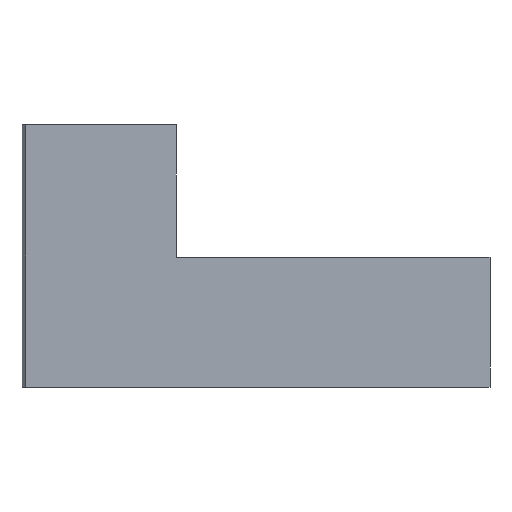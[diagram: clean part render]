
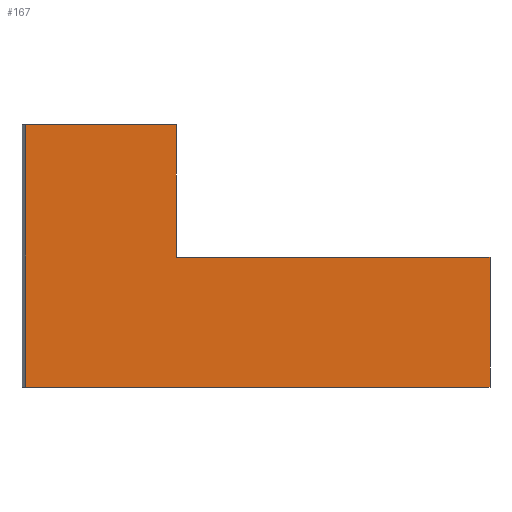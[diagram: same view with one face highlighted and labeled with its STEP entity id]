
A CAD part, left-side view. The second image highlights one B-rep face of the part: STEP entity #167.
In plain terms, the highlighted planar face has unit normal (-1, 0, 0).
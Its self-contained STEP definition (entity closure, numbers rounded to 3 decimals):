
#21=FACE_OUTER_BOUND('',#30,.T.);
#30=EDGE_LOOP('',(#135,#136,#137,#138,#139,#140));
#36=LINE('',#249,#57);
#40=LINE('',#258,#61);
#45=LINE('',#267,#66);
#46=LINE('',#270,#67);
#51=LINE('',#279,#72);
#52=LINE('',#281,#73);
#57=VECTOR('',#206,10.);
#61=VECTOR('',#214,10.);
#66=VECTOR('',#221,10.);
#67=VECTOR('',#224,10.);
#72=VECTOR('',#231,10.);
#73=VECTOR('',#234,10.);
#75=VERTEX_POINT('',#242);
#78=VERTEX_POINT('',#247);
#81=VERTEX_POINT('',#257);
#84=VERTEX_POINT('',#264);
#85=VERTEX_POINT('',#269);
#87=VERTEX_POINT('',#275);
#92=EDGE_CURVE('',#78,#75,#36,.T.);
#96=EDGE_CURVE('',#75,#81,#40,.T.);
#101=EDGE_CURVE('',#84,#81,#45,.T.);
#102=EDGE_CURVE('',#84,#85,#46,.T.);
#107=EDGE_CURVE('',#87,#85,#51,.T.);
#108=EDGE_CURVE('',#78,#87,#52,.T.);
#135=ORIENTED_EDGE('',*,*,#92,.F.);
#136=ORIENTED_EDGE('',*,*,#108,.T.);
#137=ORIENTED_EDGE('',*,*,#107,.T.);
#138=ORIENTED_EDGE('',*,*,#102,.F.);
#139=ORIENTED_EDGE('',*,*,#101,.T.);
#140=ORIENTED_EDGE('',*,*,#96,.F.);
#158=PLANE('',#196);
#167=ADVANCED_FACE('',(#21),#158,.T.);
#196=AXIS2_PLACEMENT_3D('',#280,#232,#233);
#206=DIRECTION('',(0.,0.,1.));
#214=DIRECTION('',(0.,-1.,0.));
#221=DIRECTION('',(0.,0.,1.));
#224=DIRECTION('',(0.,-1.,0.));
#231=DIRECTION('',(0.,0.,1.));
#232=DIRECTION('center_axis',(-1.,0.,0.));
#233=DIRECTION('ref_axis',(0.,-1.,0.));
#234=DIRECTION('',(0.,-1.,0.));
#242=CARTESIAN_POINT('',(-634.718,4688.337,952.35));
#247=CARTESIAN_POINT('',(-634.718,4688.337,-2410.15));
#249=CARTESIAN_POINT('',(-634.718,4688.337,-2410.15));
#257=CARTESIAN_POINT('',(-634.718,2757.991,952.35));
#258=CARTESIAN_POINT('',(-634.718,4738.337,952.35));
#264=CARTESIAN_POINT('',(-634.718,2757.991,-744.65));
#267=CARTESIAN_POINT('',(-634.718,2757.991,-744.65));
#269=CARTESIAN_POINT('',(-634.718,-1261.663,-744.65));
#270=CARTESIAN_POINT('',(-634.718,4738.337,-744.65));
#275=CARTESIAN_POINT('',(-634.718,-1261.663,-2410.15));
#279=CARTESIAN_POINT('',(-634.718,-1261.663,-2410.15));
#280=CARTESIAN_POINT('Origin',(-634.718,4738.337,-2410.15));
#281=CARTESIAN_POINT('',(-634.718,4738.337,-2410.15));
